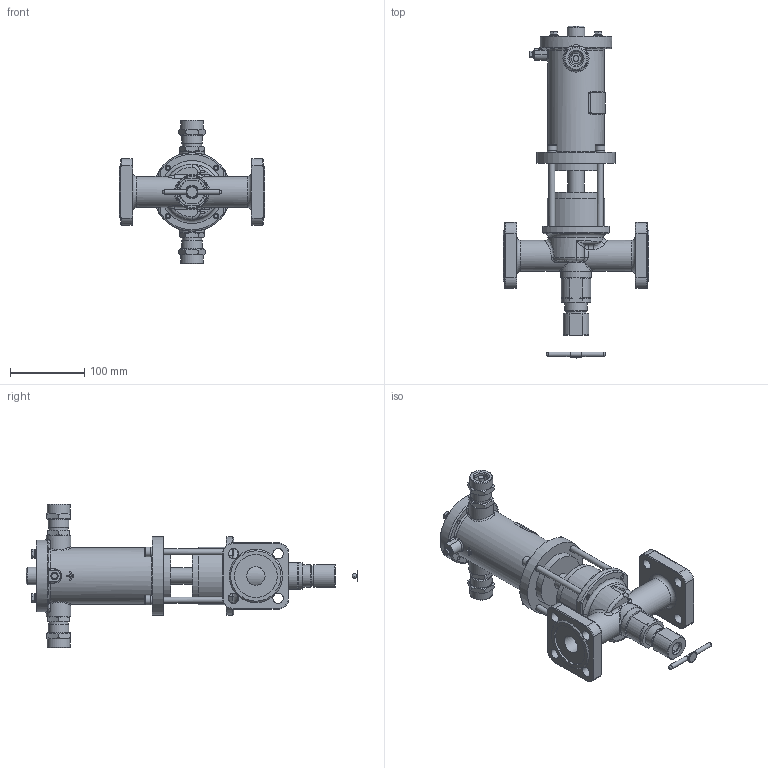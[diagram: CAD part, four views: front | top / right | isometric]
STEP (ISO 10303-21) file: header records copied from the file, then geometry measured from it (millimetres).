
FILE_DESCRIPTION(('STEP AP203'), '1');
FILE_NAME('ÑÅÍÑ DN25PN25-Â-ÍÎ-200Ñ-ÑÂ.stp', '2018-09-19T08:54:56', ('Îðëîâ Å.Â.'), ('ÎÎÎ ÍÏÏ Ñåíñîð'), 'ASCON STEP Converter 1.3', 'Kompas 3D', '');
FILE_SCHEMA(('CONFIG_CONTROL_DESIGN','SUPPORT_RESOURCE_SCHEMA'));
Length unit declared in the file: millimetre
Products named in the file (1): 104
Bounding box: 196 x 448.5 x 194 mm (x, y, z)
Volume: 404728.2 mm3; surface area: 350101.6 mm2
Topology: 19 solids, 20 shells, 2005 faces, 5287 edges, 3427 vertices
Faces by surface type: cylinder 1017, plane 730, cone 133, torus 57, bspline 50, extrusion 16, sphere 2
Full cylindrical faces by diameter (mm): 3.5 x2, 4.134 x1, 4.917 x4, 5 x1, 6 x15, 6.5 x4, 6.647 x4, 8 x8, 9 x5, 10 x1, 12 x4, 13 x6, 14 x8, 16 x3, 17 x2, 18 x1, 18.632 x2, 19.9 x1, 20 x3, 22 x3, 22.376 x2, 23 x1, 23.5 x2, 24 x3, 24.5 x2, 25 x2, 26 x4, 26.376 x2, 27.8 x1, 28 x3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
Entity records: 77685 total; most frequent: CARTESIAN_POINT 26969, DIRECTION 10990, ORIENTED_EDGE 10529, EDGE_CURVE 5266, AXIS2_PLACEMENT_3D 4238, VERTEX_POINT 3427, VECTOR 2514, LINE 2498
